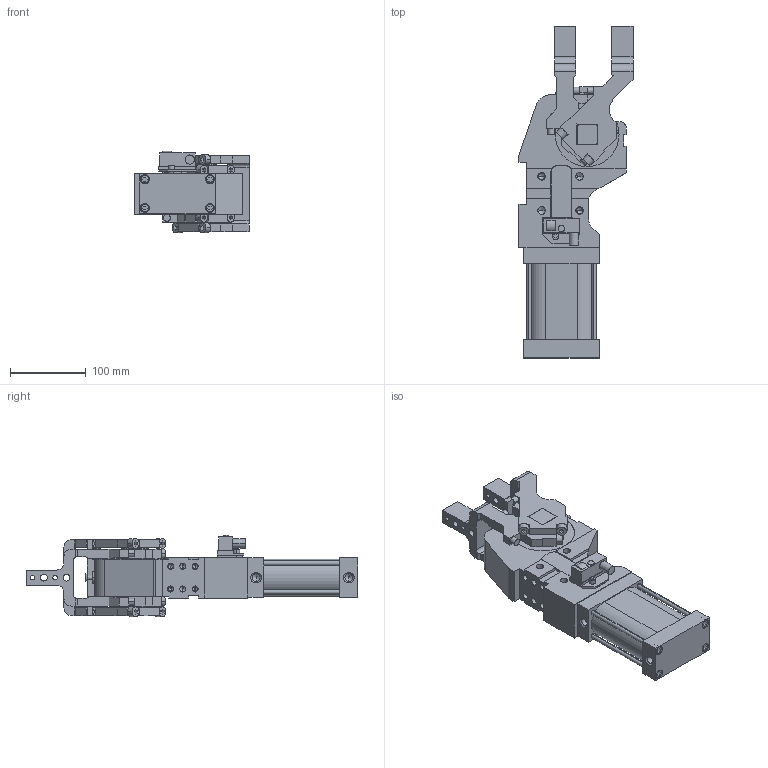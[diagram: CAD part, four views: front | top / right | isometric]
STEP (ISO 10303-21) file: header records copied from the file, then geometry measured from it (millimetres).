
FILE_DESCRIPTION (( 'STEP AP214' ), '1' );
FILE_NAME ('dl63a2c_i.STEP', '2014-03-17T09:14:30', ( 'vep' ), ( 'TOSHIBA' ), 'SwSTEP 2.0', 'SolidWorks 2013', '' );
FILE_SCHEMA (( 'AUTOMOTIVE_DESIGN' ));
Length unit declared in the file: millimetre
Products named in the file (8): leva_inferiore_dl63; gruppo_montante_dl63; leva_superiore_dl63; tassello_fermo_leva_dl63; blocchetto_p&f_90; dl63a2c_i; fc_induttivo_dl63; riparo_laterale_dl63
Assembly tree (7 placements, depth 2):
  dl63a2c_i
    gruppo_montante_dl63
    riparo_laterale_dl63
    fc_induttivo_dl63
    blocchetto_p&f_90
    tassello_fermo_leva_dl63
    leva_superiore_dl63
    leva_inferiore_dl63
Bounding box: 150.5 x 438 x 107.3 mm (x, y, z)
Volume: 2129535.4 mm3; surface area: 283921.1 mm2
Topology: 7 solids, 7 shells, 759 faces, 2035 edges, 1297 vertices
Faces by surface type: plane 482, cylinder 229, cone 48
Entity records: 24899 total; most frequent: CARTESIAN_POINT 4081, DIRECTION 4081, ORIENTED_EDGE 3982, EDGE_CURVE 1991, VECTOR 1423, LINE 1423, AXIS2_PLACEMENT_3D 1329, VERTEX_POINT 1297
